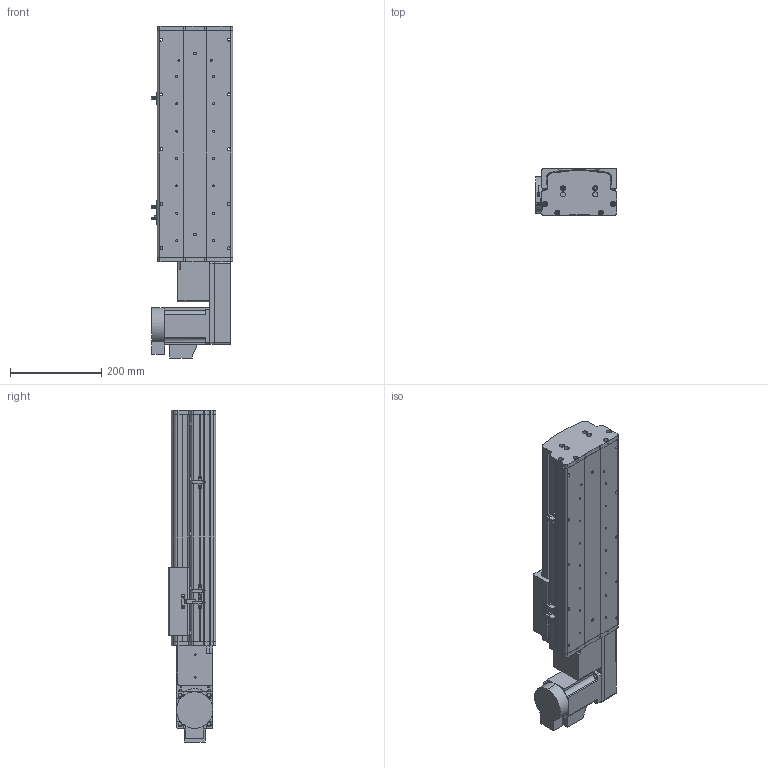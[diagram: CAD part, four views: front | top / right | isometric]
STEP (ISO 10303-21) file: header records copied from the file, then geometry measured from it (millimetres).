
FILE_DESCRIPTION (( 'STEP AP214' ), '1' );
FILE_NAME ('KSD165B-S250-MRB-CM .STEP', '2017-10-16T08:39:00', ( '微软用户' ), ( '微软中国' ), 'SwSTEP 2.0', 'SolidWorks 2014', '' );
FILE_SCHEMA (( 'AUTOMOTIVE_DESIGN' ));
Length unit declared in the file: millimetre
Products named in the file (18): KSD165模组-同步带-防撞垫2; KSD165模组同步带-防撞垫1; deep groove ball bearings gb_Rolling bearings 60-28 GB 276-94; KSD165耀郪-ヶ傷啣1-肮祭湍; KSD165模组-后端板1-同步带; KSD165模组-同步带滑动座-最新版; KSD165B-S250-MRB-CM ; HTPA26S5M250-A-H8 750W萇儂蚚; HTPA26S5M250-A-H8 400W萇儂蚚 ; 130宽模组马达安装板连板左右折同步带; 130宽模组保护罩上下左右折-同步带; KSD165模组-同步带防尘盖1-250行程-最新版; KSD165模组同步带底板-250行程-最新; 拸秶雄ん750W侜督萇儂; 165宽马达安装板同步带右; U倰嫖萇假蚾璃; U倰嫖萇EEㄜSX672; 覜茼え68遵圉猾敕
Assembly tree (21 placements, depth 2):
  KSD165B-S250-MRB-CM 
    KSD165模组-同步带滑动座-最新版
    KSD165模组-后端板1-同步带
    KSD165耀郪-ヶ傷啣1-肮祭湍
    deep groove ball bearings gb_Rolling bearings 60-28 GB 276-94
    KSD165模组同步带-防撞垫1
    KSD165模组-同步带-防撞垫2
    覜茼え68遵圉猾敕
    U倰嫖萇EEㄜSX672  x3
    U倰嫖萇假蚾璃  x3
    165宽马达安装板同步带右
    拸秶雄ん750W侜督萇儂
    KSD165模组同步带底板-250行程-最新
    KSD165模组-同步带防尘盖1-250行程-最新版
    130宽模组保护罩上下左右折-同步带
    130宽模组马达安装板连板左右折同步带
    HTPA26S5M250-A-H8 400W萇儂蚚 
    HTPA26S5M250-A-H8 750W萇儂蚚
Bounding box: 178.7 x 104 x 727.5 mm (x, y, z)
Volume: 4544108.8 mm3; surface area: 1054347.6 mm2
Topology: 22 solids, 22 shells, 1985 faces, 5851 edges, 3833 vertices
Faces by surface type: cylinder 1187, plane 580, cone 112, torus 68, sphere 38
Entity records: 66166 total; most frequent: CARTESIAN_POINT 14959, DIRECTION 10552, ORIENTED_EDGE 10134, EDGE_CURVE 5067, AXIS2_PLACEMENT_3D 4192, VERTEX_POINT 3349, CIRCLE 2403, VECTOR 2168
